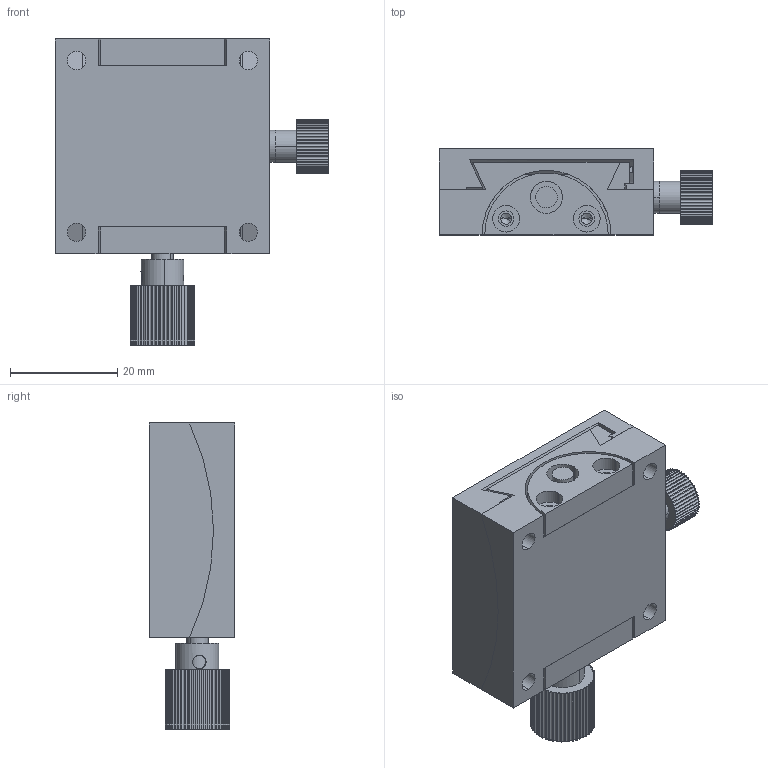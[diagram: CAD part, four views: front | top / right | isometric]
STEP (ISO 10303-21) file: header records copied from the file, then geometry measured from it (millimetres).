
FILE_DESCRIPTION (( 'STEP AP203' ), '1' );
FILE_NAME ('JT1-4035L.STEP', '2014-07-10T08:23:53', ( 'MMO' ), ( '' ), 'SwSTEP 2.0', 'SolidWorks 2013', '' );
FILE_SCHEMA (( 'CONFIG_CONTROL_DESIGN' ));
Length unit declared in the file: millimetre
Products named in the file (9): FB-JT4035-BK-C-01; FC-NB-12; FB-JT4035-RK-01; FC-NB-10; FC-SJ-3; JT1-4035L; FB-JT4035-BD-03; FB-JT4035-BD-02; FB-JT4035-BD-01
Assembly tree (9 placements, depth 2):
  JT1-4035L
    FB-JT4035-BD-03
    FB-JT4035-BD-02
    FB-JT4035-BD-01
    FB-JT4035-BK-C-01  x2
    FC-NB-12
    FB-JT4035-RK-01
    FC-NB-10
    FC-SJ-3
Bounding box: 51 x 16 x 57 mm (x, y, z)
Volume: 24655.9 mm3; surface area: 16390.5 mm2
Topology: 9 solids, 9 shells, 459 faces, 1258 edges, 821 vertices
Faces by surface type: cylinder 373, plane 58, cone 24, bspline 4
Entity records: 16177 total; most frequent: CARTESIAN_POINT 3322, DIRECTION 2768, ORIENTED_EDGE 2400, EDGE_CURVE 1200, AXIS2_PLACEMENT_3D 1157, VERTEX_POINT 797, CIRCLE 706, EDGE_LOOP 509
